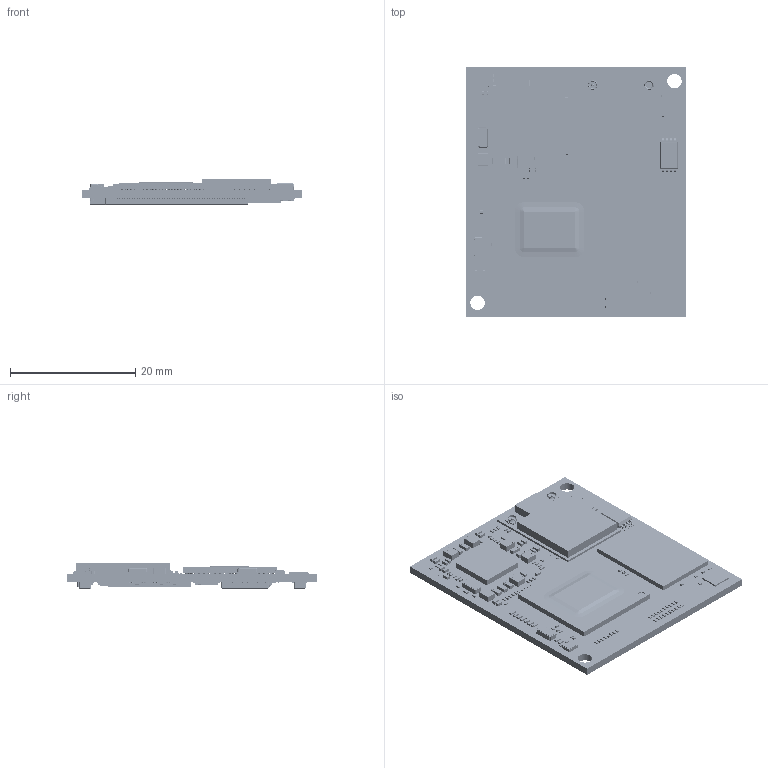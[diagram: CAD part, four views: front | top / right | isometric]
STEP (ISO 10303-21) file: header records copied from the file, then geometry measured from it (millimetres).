
FILE_DESCRIPTION(/* description */ ('PCB Design'),/* implementation_level */ '2;1');
FILE_NAME(/* name */ 'PICOCOREMX8MP_REV110',/* time_stamp */ '2024-07-05T15:08:06+02:00',/* author */ (''),/* organization */ (''),/* preprocessor_version */ 'ST-DEVELOPER v16',/* originating_system */ 'allegro_23.1S003',/* authorisation */ '');
FILE_SCHEMA (('AUTOMOTIVE_DESIGN { 1 0 10303 214 3 1 1 }'));
Products named in the file (130): PICOCOREMX8MP_REV110; BOARD_OUTLINE; COMPONENTS; QFN40P300X300X33; QFN40-04M-5X5-FS; QFN32-05M-5X5-FS; DFN2626-10; DF40C-30DP; BGA153-05M-INAND-1105X13; MODULE96-AW-CM276NF-12X16M; HVQFN56_0P4_7X7_EP4P7MM; BGA548_0P5_15X15MM; TSSOP8-065M; HG1-PR180D91; L0806; XTALD-4-2X106M; TP24SR28SMD; L0805; BGA200-065M-DDR4-10X15; R0201; DF40C-100DP; C0603; FM40SR80-SIS; XTALSD-2-302X105MM; SOT323-GDS; C04502; R0402; C0402; C0201; Body; ThermalPin; PinsArrayLR; PinsArrayTB; User_Library-QFN_40_5x5; User_Library-QFN-32-5x5_-_EQ; dfn2626-10; Volumenkörper1; Component1; Component3; Component4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
Assembly tree (571 placements, depth 5):
  PICOCOREMX8MP_REV110
    BOARD_OUTLINE
    COMPONENTS
      QFN40P300X300X33
        QFN40P300X300X33
          Body
          ThermalPin
          PinsArrayLR
          PinsArrayTB
      QFN40-04M-5X5-FS  x2
        User_Library-QFN_40_5x5
      QFN32-05M-5X5-FS
        User_Library-QFN-32-5x5_-_EQ
      DFN2626-10
        dfn2626-10
          Body
          ThermalPin
          PinsArrayLR
      DF40C-30DP
        Volumenkörper1
      BGA153-05M-INAND-1105X13
        BGA153-05M-INAND-1105X13
          Component1
          Component3
          Component4
          Component5
          Component6
          Component7
          Component8
          Component9
          Component10
          Component11
          Component12
          Component13
          Component14
          Component15
          Component16
          Component17
          Component18
          Component19
          Component20
          Component21
          Component22
          Component23
          Component24
          Component25
          Component26
          Component27
          Component28
          Component29
          Component30
          Component31
          Component32
          Component33
          Component34
          Component35
          Component36
          Component37
          Component38
          Component39
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Bounding box: 35 x 40 x 4.05 mm (x, y, z)
Volume: 961.2 mm3; surface area: 6904.7 mm2
Topology: 1176 solids, 1177 shells, 25331 faces, 64814 edges, 38221 vertices
Faces by surface type: plane 16513, cylinder 5596, sphere 3134, cone 60, bspline 16, torus 12
Entity records: 232285 total; most frequent: DIRECTION 30766, CARTESIAN_POINT 29896, ORIENTED_EDGE 26206, EDGE_CURVE 13106, AXIS2_PLACEMENT_3D 11421, VERTEX_POINT 9105, VECTOR 8909, LINE 8909
